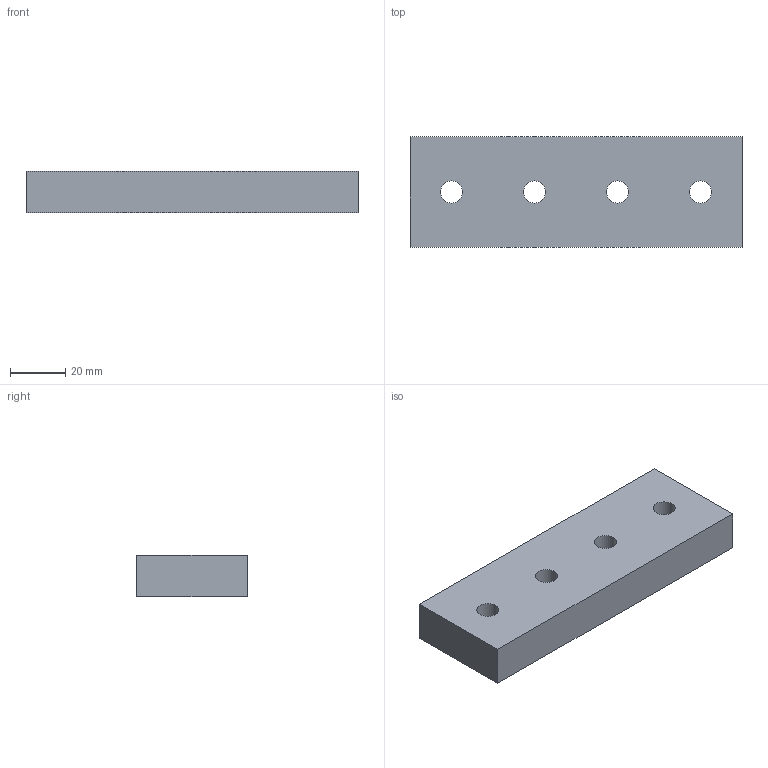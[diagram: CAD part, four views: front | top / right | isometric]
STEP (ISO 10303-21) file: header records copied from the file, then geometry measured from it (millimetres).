
FILE_DESCRIPTION(('Open CASCADE Model'),'2;1');
FILE_NAME('Open CASCADE Shape Model','2026-03-24T09:37:59',('Author'),( 'Open CASCADE'),'Open CASCADE STEP processor 7.8','Open CASCADE 7.8' ,'Unknown');
FILE_SCHEMA(('AUTOMOTIVE_DESIGN { 1 0 10303 214 1 1 1 1 }'));
Length unit declared in the file: millimetre
Products named in the file (1): Open CASCADE STEP translator 7.8 8
Bounding box: 120 x 40 x 15 mm (x, y, z)
Volume: 68984.1 mm3; surface area: 15505.8 mm2
Topology: 1 solids, 1 shells, 10 faces, 24 edges, 16 vertices
Faces by surface type: plane 6, cylinder 4
Full cylindrical faces by diameter (mm): 8 x4
Entity records: 658 total; most frequent: CARTESIAN_POINT 147, DIRECTION 94, LINE 56, VECTOR 56, ORIENTED_EDGE 48, PCURVE 48, DEFINITIONAL_REPRESENTATION 48, EDGE_CURVE 24
